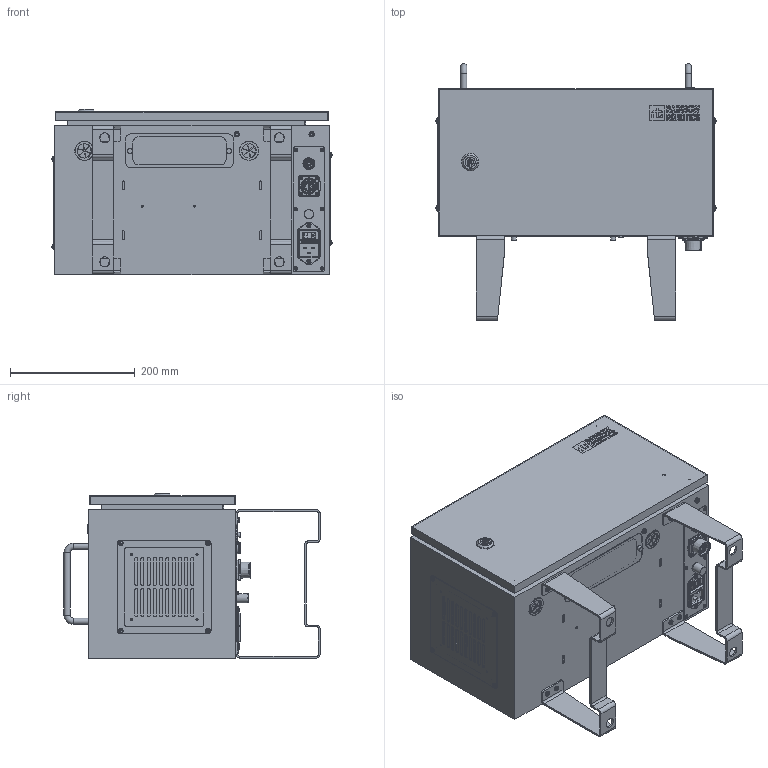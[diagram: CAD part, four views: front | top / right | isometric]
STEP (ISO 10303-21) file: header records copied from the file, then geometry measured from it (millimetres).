
FILE_DESCRIPTION(/* description */ (''),/* implementation_level */ '2;1');
FILE_NAME(/* name */ 'CB06.stp',/* time_stamp */ '2024-01-19T11:37:37+09:00',/* author */ ('TK AHN'),/* organization */ (''),/* preprocessor_version */ 'ST-DEVELOPER v19.2',/* originating_system */ 'Autodesk Inventor 2023',/* authorisation */ '');
FILE_SCHEMA (('AUTOMOTIVE_DESIGN { 1 0 10303 214 3 1 1 }'));
Products named in the file (1): CB06
Bounding box: 449.1 x 411 x 265.21 mm (x, y, z)
Volume: 25343468.7 mm3; surface area: 1207380.7 mm2
Topology: 51 solids, 58 shells, 4314 faces, 12129 edges, 8065 vertices
Faces by surface type: plane 2078, cylinder 975, cone 553, bspline 423, torus 252, sphere 33
Full cylindrical faces by diameter (mm): 1.5 x10, 1.6 x4, 1.7 x20, 1.8 x1, 2 x18, 2.459 x14, 2.5 x14, 2.6 x11, 2.693 x12, 2.8 x2, 2.9 x2, 3 x20, 3.1 x10, 3.242 x18, 3.3 x2, 3.4 x4, 3.5 x8, 3.571 x16, 3.6 x11, 4 x19, 4.134 x2, 4.2 x1, 4.5 x18, 5 x6, 5.5 x6, 5.6 x4, 6 x1, 6.4 x6, 8 x2, 10 x8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
Entity records: 186259 total; most frequent: CARTESIAN_POINT 72911, ORIENTED_EDGE 24103, DIRECTION 21189, EDGE_CURVE 12056, VERTEX_POINT 8064, AXIS2_PLACEMENT_3D 7462, LINE 6265, VECTOR 6265
